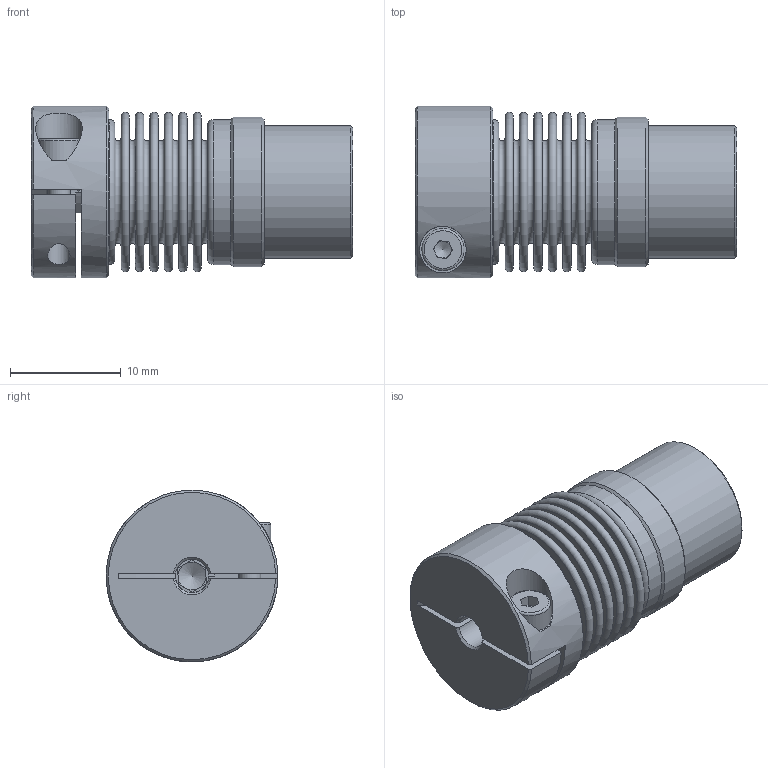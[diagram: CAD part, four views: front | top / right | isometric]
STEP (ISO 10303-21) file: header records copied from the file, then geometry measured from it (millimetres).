
FILE_DESCRIPTION( ( 'Unknown' ), '1' );
FILE_NAME( 'K:/Konstruktion/cad kunden/3D - Daten/KB3/KB3-10-22.stp', 'Unknown', ( 'Unknown' ), ( 'Unknown' ), 'PSStep 16.0.42', 'Unknown', ' ' );
FILE_SCHEMA( ( 'AUTOMOTIVE_DESIGN { 1 0 10303 214 1 1 1 1 }' ) );
Length unit declared in the file: millimetre
Products named in the file (6): Assem1; KN10_Standard_11; SN10; Socket Head Cap Screw_DIN_DIN 912 M2 x 8 --- 8N_5; Socket Head Cap Screw_DIN_DIN 912 M3 x 10 --- 10N_2; BK10_Standard_0
Assembly tree (5 placements, depth 2):
  Assem1
    KN10_Standard_11
    SN10
    Socket Head Cap Screw_DIN_DIN 912 M2 x 8 --- 8N_5
    Socket Head Cap Screw_DIN_DIN 912 M3 x 10 --- 10N_2
    BK10_Standard_0
Bounding box: 29 x 15.5 x 15.5 mm (x, y, z)
Volume: 3001.4 mm3; surface area: 5409.6 mm2
Topology: 5 solids, 5 shells, 141 faces, 275 edges, 176 vertices
Faces by surface type: plane 75, torus 34, cylinder 20, cone 12
Full cylindrical faces by diameter (mm): 2 x2, 2.2 x1, 2.5 x1, 3 x2, 3.8 x1, 5.5 x1, 12 x1, 12.9 x3, 13.1 x2, 13.5 x1, 15.5 x1
Entity records: 4618 total; most frequent: DIRECTION 624, CARTESIAN_POINT 623, ORIENTED_EDGE 410, AXIS2_PLACEMENT_3D 276, EDGE_LOOP 242, EDGE_CURVE 205, FACE_OUTER_BOUND 191, VERTEX_POINT 179
